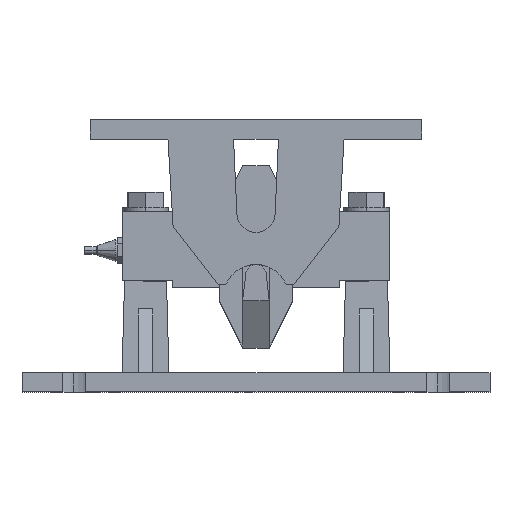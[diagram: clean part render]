
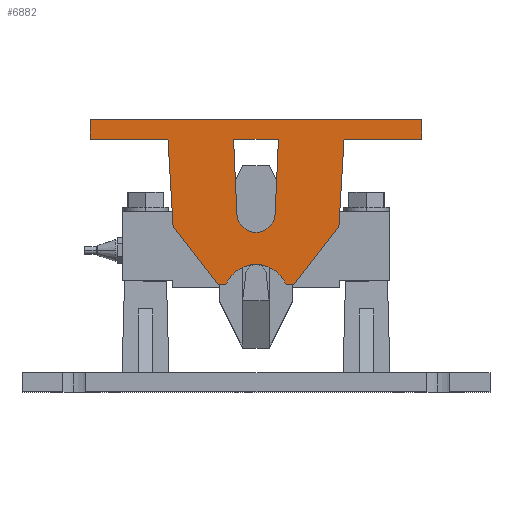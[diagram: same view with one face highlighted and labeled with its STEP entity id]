
A CAD part, top view. The second image highlights one B-rep face of the part: STEP entity #6882.
In plain terms, the highlighted planar face has unit normal (0, 0, 1).
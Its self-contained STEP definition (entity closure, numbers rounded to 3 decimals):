
#110 = EDGE_CURVE ( 'NONE', #4117, #7047, #2941, .T. ) ;
#118 = VERTEX_POINT ( 'NONE', #3796 ) ;
#193 = VERTEX_POINT ( 'NONE', #7351 ) ;
#209 = CARTESIAN_POINT ( 'NONE',  ( -14.03, -62.373, 1089. ) ) ;
#248 = DIRECTION ( 'NONE',  ( -0.059, 0.998, 0. ) ) ;
#268 = DIRECTION ( 'NONE',  ( -1., 0., 0. ) ) ;
#336 = CARTESIAN_POINT ( 'NONE',  ( -95.03, 7.127, 1089. ) ) ;
#369 = DIRECTION ( 'NONE',  ( 1., 0., 0. ) ) ;
#427 = CARTESIAN_POINT ( 'NONE',  ( 147.97, 111.127, 1089. ) ) ;
#460 = CARTESIAN_POINT ( 'NONE',  ( -14.03, -49.873, 1089. ) ) ;
#494 = CARTESIAN_POINT ( 'NONE',  ( -43.488, -49.873, 1089. ) ) ;
#500 = LINE ( 'NONE', #8673, #5279 ) ;
#669 = FACE_OUTER_BOUND ( 'NONE', #8209, .T. ) ;
#716 = CARTESIAN_POINT ( 'NONE',  ( 66.97, 7.127, 1089. ) ) ;
#980 = EDGE_CURVE ( 'NONE', #3590, #4918, #3044, .T. ) ;
#1120 = CARTESIAN_POINT ( 'NONE',  ( 22.97, -49.873, 1089. ) ) ;
#1226 = VECTOR ( 'NONE', #5225, 1000. ) ;
#1326 = CARTESIAN_POINT ( 'NONE',  ( 147.97, 111.127, 1089. ) ) ;
#1349 = LINE ( 'NONE', #716, #7078 ) ;
#1598 = ORIENTED_EDGE ( 'NONE', *, *, #5954, .F. ) ;
#1618 = VECTOR ( 'NONE', #4799, 1000. ) ;
#1802 = VECTOR ( 'NONE', #7429, 1000. ) ;
#1848 = DIRECTION ( 'NONE',  ( -0.611, 0.792, 0. ) ) ;
#1903 = LINE ( 'NONE', #8065, #4162 ) ;
#2050 = VECTOR ( 'NONE', #2100, 1000. ) ;
#2094 = VERTEX_POINT ( 'NONE', #8409 ) ;
#2100 = DIRECTION ( 'NONE',  ( 1., 0., 0. ) ) ;
#2123 = EDGE_LOOP ( 'NONE', ( #7654, #2597, #8083, #6451 ) ) ;
#2125 = VECTOR ( 'NONE', #8157, 1000. ) ;
#2230 = DIRECTION ( 'NONE',  ( 1., 0., 0. ) ) ;
#2270 = DIRECTION ( 'NONE',  ( -0.059, -0.998, 0. ) ) ;
#2409 = EDGE_CURVE ( 'NONE', #7469, #7644, #6031, .T. ) ;
#2473 = CARTESIAN_POINT ( 'NONE',  ( -32.78, 19.877, 1089. ) ) ;
#2479 = ORIENTED_EDGE ( 'NONE', *, *, #4482, .T. ) ;
#2506 = EDGE_CURVE ( 'NONE', #7047, #8282, #1349, .T. ) ;
#2597 = ORIENTED_EDGE ( 'NONE', *, *, #5278, .F. ) ;
#2770 = DIRECTION ( 'NONE',  ( -0.611, -0.792, 0. ) ) ;
#2888 = ORIENTED_EDGE ( 'NONE', *, *, #110, .F. ) ;
#2941 = LINE ( 'NONE', #8428, #6245 ) ;
#3044 = LINE ( 'NONE', #5026, #7989 ) ;
#3223 = LINE ( 'NONE', #3858, #5674 ) ;
#3395 = VERTEX_POINT ( 'NONE', #7070 ) ;
#3405 = ORIENTED_EDGE ( 'NONE', *, *, #6917, .T. ) ;
#3406 = PLANE ( 'NONE',  #4672 ) ;
#3452 = EDGE_CURVE ( 'NONE', #6304, #3474, #500, .T. ) ;
#3474 = VERTEX_POINT ( 'NONE', #5179 ) ;
#3518 = EDGE_CURVE ( 'NONE', #193, #5088, #7297, .T. ) ;
#3532 = ORIENTED_EDGE ( 'NONE', *, *, #8176, .T. ) ;
#3533 = DIRECTION ( 'NONE',  ( 0., -1., 0. ) ) ;
#3580 = LINE ( 'NONE', #6915, #2050 ) ;
#3590 = VERTEX_POINT ( 'NONE', #8589 ) ;
#3718 = ORIENTED_EDGE ( 'NONE', *, *, #7516, .F. ) ;
#3796 = CARTESIAN_POINT ( 'NONE',  ( 147.97, 92.127, 1089. ) ) ;
#3858 = CARTESIAN_POINT ( 'NONE',  ( 4.72, 19.877, 1089. ) ) ;
#3876 = CARTESIAN_POINT ( 'NONE',  ( -51.03, -49.873, 1089. ) ) ;
#3960 = CARTESIAN_POINT ( 'NONE',  ( -14.03, 92.127, 1089. ) ) ;
#4007 = DIRECTION ( 'NONE',  ( 1., 0., 0. ) ) ;
#4094 = CIRCLE ( 'NONE', #7403, 32. ) ;
#4117 = VERTEX_POINT ( 'NONE', #4317 ) ;
#4162 = VECTOR ( 'NONE', #6132, 1000. ) ;
#4163 = CARTESIAN_POINT ( 'NONE',  ( -176.03, 111.127, 1089. ) ) ;
#4317 = CARTESIAN_POINT ( 'NONE',  ( 71.97, 92.127, 1089. ) ) ;
#4482 = EDGE_CURVE ( 'NONE', #2094, #8282, #1903, .T. ) ;
#4589 = CARTESIAN_POINT ( 'NONE',  ( -14.03, 19.877, 1089. ) ) ;
#4672 = AXIS2_PLACEMENT_3D ( 'NONE', #8883, #8084, #8215 ) ;
#4798 = ORIENTED_EDGE ( 'NONE', *, *, #2506, .F. ) ;
#4799 = DIRECTION ( 'NONE',  ( 1., 0., 0. ) ) ;
#4887 = CARTESIAN_POINT ( 'NONE',  ( 4.72, 19.877, 1089. ) ) ;
#4918 = VERTEX_POINT ( 'NONE', #8011 ) ;
#4943 = EDGE_CURVE ( 'NONE', #5838, #3395, #7340, .T. ) ;
#4993 = AXIS2_PLACEMENT_3D ( 'NONE', #4589, #8632, #369 ) ;
#4998 = EDGE_CURVE ( 'NONE', #6304, #7987, #8768, .T. ) ;
#5026 = CARTESIAN_POINT ( 'NONE',  ( -35.93, 92.127, 1089. ) ) ;
#5039 = EDGE_CURVE ( 'NONE', #4918, #193, #8055, .T. ) ;
#5088 = VERTEX_POINT ( 'NONE', #4887 ) ;
#5179 = CARTESIAN_POINT ( 'NONE',  ( -95.03, 7.127, 1089. ) ) ;
#5225 = DIRECTION ( 'NONE',  ( 0.044, -0.999, 0. ) ) ;
#5278 = EDGE_CURVE ( 'NONE', #5088, #3590, #3223, .T. ) ;
#5279 = VECTOR ( 'NONE', #1848, 1000. ) ;
#5417 = LINE ( 'NONE', #1326, #2125 ) ;
#5670 = ORIENTED_EDGE ( 'NONE', *, *, #4943, .T. ) ;
#5674 = VECTOR ( 'NONE', #5975, 1000. ) ;
#5747 = ORIENTED_EDGE ( 'NONE', *, *, #3452, .F. ) ;
#5838 = VERTEX_POINT ( 'NONE', #6551 ) ;
#5920 = CARTESIAN_POINT ( 'NONE',  ( 66.97, 7.127, 1089. ) ) ;
#5954 = EDGE_CURVE ( 'NONE', #7644, #118, #5417, .T. ) ;
#5975 = DIRECTION ( 'NONE',  ( 0.044, 0.999, 0. ) ) ;
#6031 = LINE ( 'NONE', #6158, #1618 ) ;
#6132 = DIRECTION ( 'NONE',  ( 1., 0., 0. ) ) ;
#6158 = CARTESIAN_POINT ( 'NONE',  ( -14.03, 111.127, 1089. ) ) ;
#6245 = VECTOR ( 'NONE', #2270, 1000. ) ;
#6304 = VERTEX_POINT ( 'NONE', #3876 ) ;
#6312 = ORIENTED_EDGE ( 'NONE', *, *, #6968, .F. ) ;
#6391 = VECTOR ( 'NONE', #248, 1000. ) ;
#6451 = ORIENTED_EDGE ( 'NONE', *, *, #5039, .F. ) ;
#6551 = CARTESIAN_POINT ( 'NONE',  ( -176.03, 92.127, 1089. ) ) ;
#6568 = ORIENTED_EDGE ( 'NONE', *, *, #2409, .F. ) ;
#6831 = FACE_BOUND ( 'NONE', #2123, .T. ) ;
#6873 = LINE ( 'NONE', #4163, #8118 ) ;
#6882 = ADVANCED_FACE ( 'NONE', ( #6831, #669 ), #3406, .F. ) ;
#6915 = CARTESIAN_POINT ( 'NONE',  ( -14.03, 92.127, 1089. ) ) ;
#6917 = EDGE_CURVE ( 'NONE', #7469, #5838, #6873, .T. ) ;
#6968 = EDGE_CURVE ( 'NONE', #2094, #7987, #4094, .T. ) ;
#7047 = VERTEX_POINT ( 'NONE', #5920 ) ;
#7051 = DIRECTION ( 'NONE',  ( 0., 0., 1. ) ) ;
#7070 = CARTESIAN_POINT ( 'NONE',  ( -100.03, 92.127, 1089. ) ) ;
#7078 = VECTOR ( 'NONE', #2770, 1000. ) ;
#7108 = ORIENTED_EDGE ( 'NONE', *, *, #4998, .T. ) ;
#7297 = CIRCLE ( 'NONE', #4993, 18.75 ) ;
#7340 = LINE ( 'NONE', #3960, #1802 ) ;
#7351 = CARTESIAN_POINT ( 'NONE',  ( -32.78, 19.877, 1089. ) ) ;
#7403 = AXIS2_PLACEMENT_3D ( 'NONE', #209, #7051, #2230 ) ;
#7429 = DIRECTION ( 'NONE',  ( 1., 0., 0. ) ) ;
#7469 = VERTEX_POINT ( 'NONE', #7892 ) ;
#7516 = EDGE_CURVE ( 'NONE', #3474, #3395, #8467, .T. ) ;
#7644 = VERTEX_POINT ( 'NONE', #427 ) ;
#7654 = ORIENTED_EDGE ( 'NONE', *, *, #980, .F. ) ;
#7892 = CARTESIAN_POINT ( 'NONE',  ( -176.03, 111.127, 1089. ) ) ;
#7987 = VERTEX_POINT ( 'NONE', #494 ) ;
#7989 = VECTOR ( 'NONE', #268, 1000. ) ;
#8011 = CARTESIAN_POINT ( 'NONE',  ( -35.93, 92.127, 1089. ) ) ;
#8055 = LINE ( 'NONE', #2473, #1226 ) ;
#8065 = CARTESIAN_POINT ( 'NONE',  ( -14.03, -49.873, 1089. ) ) ;
#8083 = ORIENTED_EDGE ( 'NONE', *, *, #3518, .F. ) ;
#8084 = DIRECTION ( 'NONE',  ( 0., 0., -1. ) ) ;
#8118 = VECTOR ( 'NONE', #3533, 1000. ) ;
#8157 = DIRECTION ( 'NONE',  ( 0., -1., 0. ) ) ;
#8176 = EDGE_CURVE ( 'NONE', #4117, #118, #3580, .T. ) ;
#8209 = EDGE_LOOP ( 'NONE', ( #7108, #6312, #2479, #4798, #2888, #3532, #1598, #6568, #3405, #5670, #3718, #5747 ) ) ;
#8215 = DIRECTION ( 'NONE',  ( -1., 0., 0. ) ) ;
#8282 = VERTEX_POINT ( 'NONE', #1120 ) ;
#8409 = CARTESIAN_POINT ( 'NONE',  ( 15.428, -49.873, 1089. ) ) ;
#8428 = CARTESIAN_POINT ( 'NONE',  ( 66.97, 7.127, 1089. ) ) ;
#8467 = LINE ( 'NONE', #336, #6391 ) ;
#8545 = VECTOR ( 'NONE', #4007, 1000. ) ;
#8589 = CARTESIAN_POINT ( 'NONE',  ( 7.87, 92.127, 1089. ) ) ;
#8632 = DIRECTION ( 'NONE',  ( 0., 0., 1. ) ) ;
#8673 = CARTESIAN_POINT ( 'NONE',  ( -95.03, 7.127, 1089. ) ) ;
#8768 = LINE ( 'NONE', #460, #8545 ) ;
#8883 = CARTESIAN_POINT ( 'NONE',  ( -14.03, 111.127, 1089. ) ) ;
